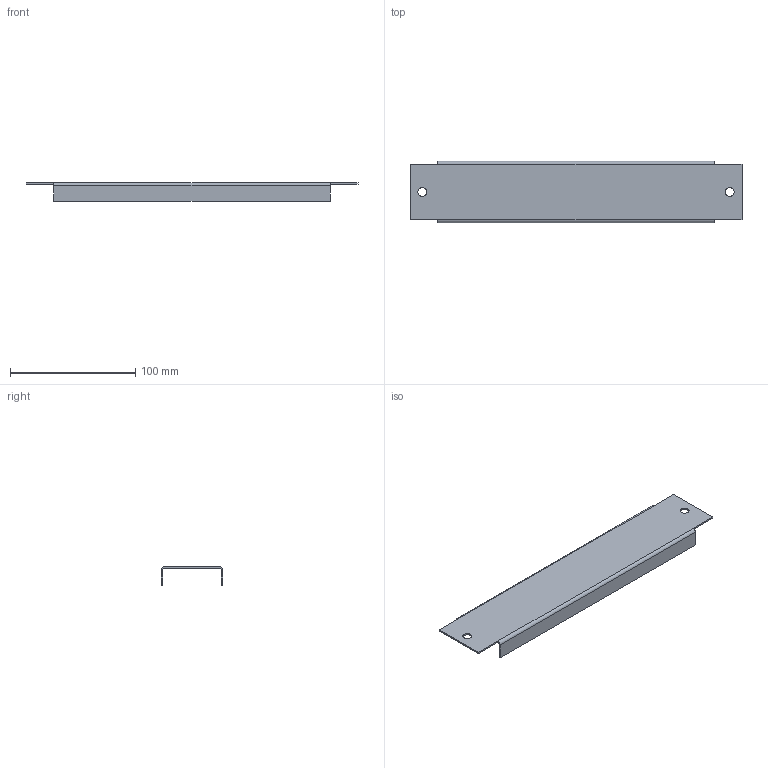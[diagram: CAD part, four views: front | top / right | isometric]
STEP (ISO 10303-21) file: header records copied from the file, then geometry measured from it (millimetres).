
FILE_DESCRIPTION (( 'STEP AP203' ), '1' );
FILE_NAME ('MB 05.30 Ïàíåëü ìîäóëüíàÿ.STEP', '2022-05-12T11:36:45', ( '' ), ( '' ), 'SwSTEP 2.0', 'SolidWorks 2018', '' );
FILE_SCHEMA (( 'CONFIG_CONTROL_DESIGN' ));
Length unit declared in the file: millimetre
Products named in the file (1): MB 05.30 Ïàíåëü ìîäóëüíàÿ
Bounding box: 265 x 49 x 15 mm (x, y, z)
Volume: 22123.7 mm3; surface area: 37741.8 mm2
Topology: 1 solids, 1 shells, 30 faces, 68 edges, 40 vertices
Faces by surface type: plane 22, cylinder 8
Entity records: 905 total; most frequent: DIRECTION 146, CARTESIAN_POINT 139, ORIENTED_EDGE 136, EDGE_CURVE 68, LINE 52, VECTOR 52, AXIS2_PLACEMENT_3D 47, VERTEX_POINT 40
